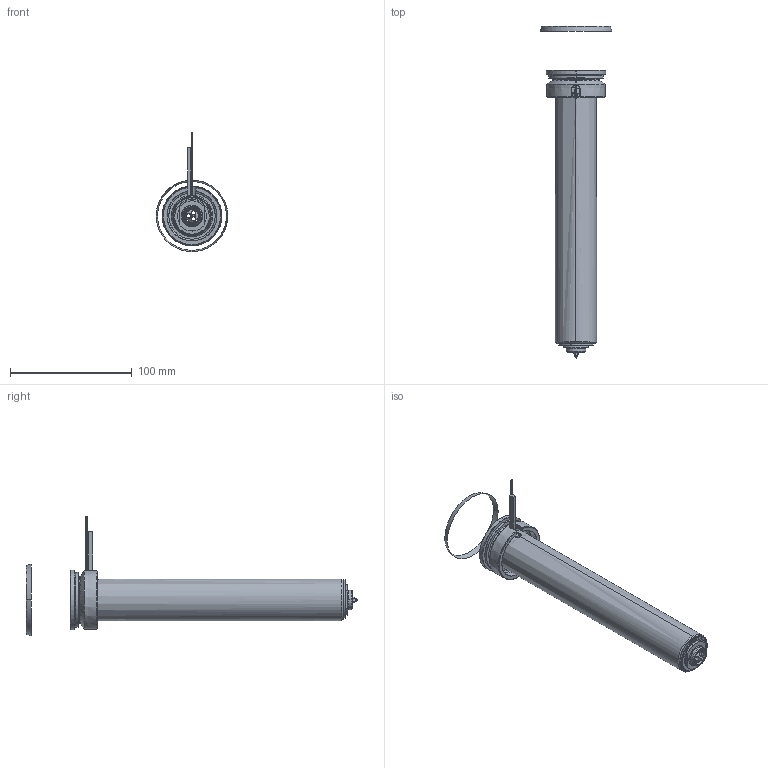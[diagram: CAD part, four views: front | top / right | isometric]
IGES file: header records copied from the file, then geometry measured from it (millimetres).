
Start section: SolidWorks IGES file using analytic representation for surfaces
Global section: file name: C:\Documents and Settings\ws-20\Desktop\TEM\UGEP5005-S-A-1 [Øf-1.36 ØC-12].IGS; native system: SolidWorks 2012; preprocessor: SolidWorks 2012; author: ws-20; date: 120426.100344; units: millimetre
Bounding box: 58.79 x 272.24 x 98.01 mm (x, y, z)
Surface area: 88658.5 mm2 (no closed solid volume)
Topology: 0 solids, 0 shells, 124 faces, 2376 edges, 2376 vertices
Faces by surface type: revolution 79, bspline 45
